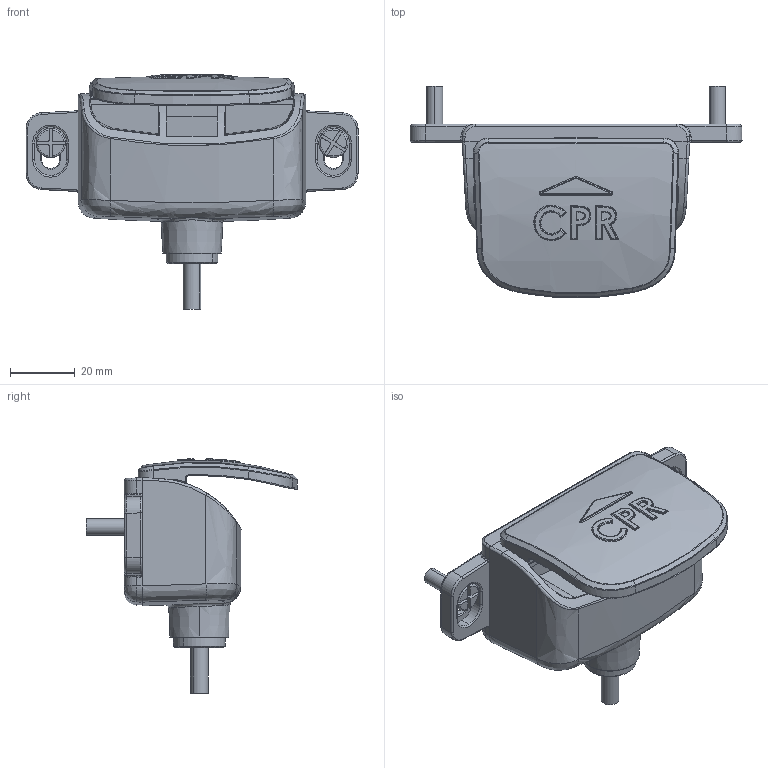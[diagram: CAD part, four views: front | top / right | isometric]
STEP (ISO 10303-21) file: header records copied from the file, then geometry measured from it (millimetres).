
FILE_DESCRIPTION (( 'STEP AP203' ), '1' );
FILE_NAME ('TMH26_ASM.STEP', '2022-03-07T05:52:04', ( '' ), ( '' ), 'SwSTEP 2.0', 'SolidWorks 2015', '' );
FILE_SCHEMA (( 'CONFIG_CONTROL_DESIGN' ));
Products named in the file (1): TMH26_ASM
Bounding box: 102.17 x 65.16 x 72.12 mm (x, y, z)
Volume: 93957.4 mm3; surface area: 29622.7 mm2
Topology: 6 solids, 6 shells, 660 faces, 1701 edges, 1067 vertices
Faces by surface type: bspline 326, plane 145, cylinder 144, torus 27, cone 13, sphere 5
Entity records: 42439 total; most frequent: CARTESIAN_POINT 29184, ORIENTED_EDGE 3390, DIRECTION 1808, EDGE_CURVE 1695, VERTEX_POINT 1067, B_SPLINE_CURVE_WITH_KNOTS 777, EDGE_LOOP 692, AXIS2_PLACEMENT_3D 667
